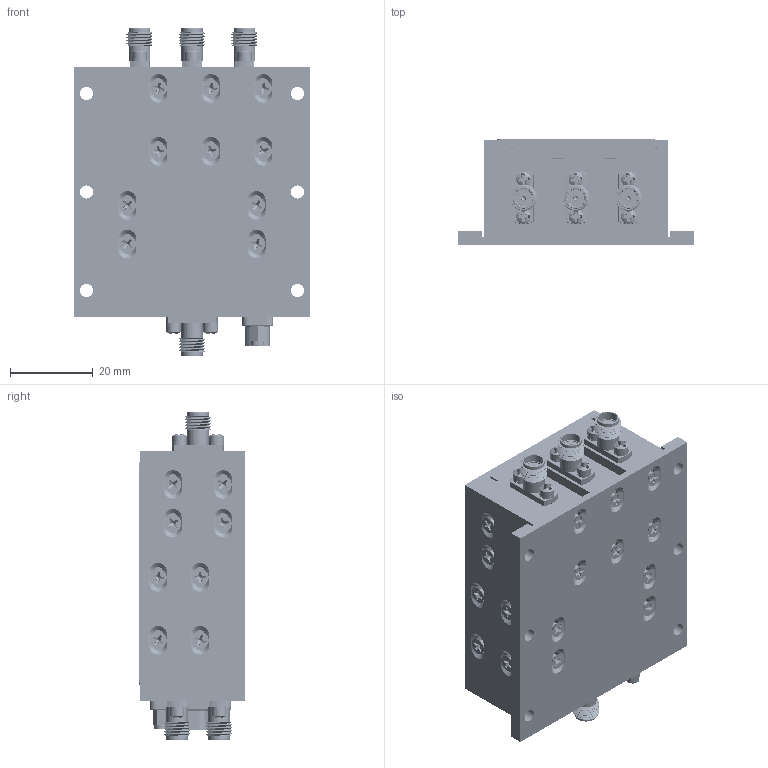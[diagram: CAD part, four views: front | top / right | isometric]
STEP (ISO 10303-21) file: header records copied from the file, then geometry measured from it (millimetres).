
FILE_DESCRIPTION (( 'STEP AP214' ), '1' );
FILE_NAME ('3x2 Non-Blocking Switch Matrix.STEP', '2023-07-31T19:20:18', ( '' ), ( '' ), 'SwSTEP 2.0', 'SolidWorks 2023', '' );
FILE_SCHEMA (( 'AUTOMOTIVE_DESIGN' ));
Length unit declared in the file: inch
Products named in the file (1): 3x2 Non-Blocking Switch Matrix
Bounding box: 57.15 x 25.53 x 79.38 mm (x, y, z)
Volume: 62992.9 mm3; surface area: 49870.2 mm2
Topology: 107 solids, 107 shells, 4313 faces, 11974 edges, 7985 vertices
Faces by surface type: plane 1726, cylinder 1107, cone 880, torus 416, sphere 114, bspline 70
Entity records: 160916 total; most frequent: CARTESIAN_POINT 50598, ORIENTED_EDGE 23440, DIRECTION 22022, EDGE_CURVE 11720, AXIS2_PLACEMENT_3D 8428, VERTEX_POINT 7985, LINE 5166, VECTOR 5166
